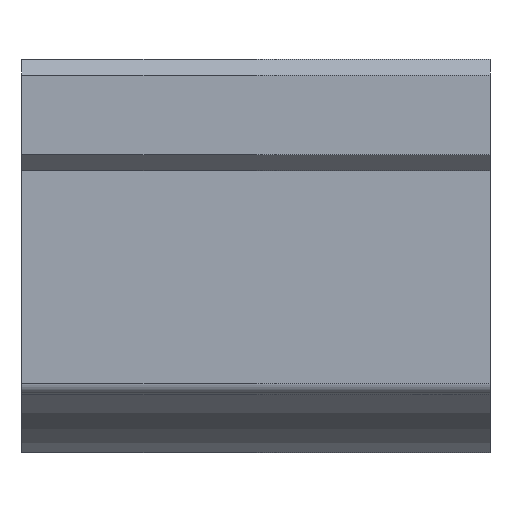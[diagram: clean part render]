
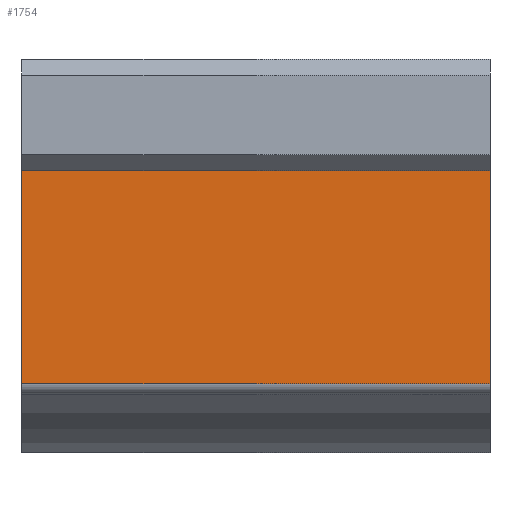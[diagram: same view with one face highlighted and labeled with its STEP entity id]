
A CAD part, front view. The second image highlights one B-rep face of the part: STEP entity #1754.
In plain terms, the highlighted planar face has unit normal (0, -1, 0).
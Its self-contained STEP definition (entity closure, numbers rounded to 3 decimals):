
#1486=CARTESIAN_POINT('',(44.0,-23.5,8.5));
#1487=VERTEX_POINT('',#1486);
#1494=CARTESIAN_POINT('',(44.0,-23.5,-11.5));
#1495=VERTEX_POINT('',#1494);
#1496=CARTESIAN_POINT('',(44.0,-23.5,-11.5));
#1497=DIRECTION('',(0.0,0.0,1.0));
#1498=VECTOR('',#1497,20.);
#1499=LINE('',#1496,#1498);
#1500=EDGE_CURVE('',#1495,#1487,#1499,.T.);
#1564=CARTESIAN_POINT('',(0.0,-23.5,-11.5));
#1565=VERTEX_POINT('',#1564);
#1566=CARTESIAN_POINT('',(44.0,-23.5,-11.5));
#1567=DIRECTION('',(-1.0,0.0,0.0));
#1568=VECTOR('',#1567,44.0);
#1569=LINE('',#1566,#1568);
#1570=EDGE_CURVE('',#1495,#1565,#1569,.T.);
#1630=CARTESIAN_POINT('',(0.0,-23.5,8.5));
#1631=VERTEX_POINT('',#1630);
#1632=CARTESIAN_POINT('',(0.0,-23.5,8.5));
#1633=DIRECTION('',(0.0,0.0,-1.0));
#1634=VECTOR('',#1633,20.);
#1635=LINE('',#1632,#1634);
#1636=EDGE_CURVE('',#1631,#1565,#1635,.T.);
#1738=CARTESIAN_POINT('',(0.0,-23.5,-12.5));
#1739=DIRECTION('',(0.0,-1.0,0.0));
#1740=DIRECTION('',(0.0,0.0,-1.0));
#1741=AXIS2_PLACEMENT_3D('',#1738,#1739,#1740);
#1742=PLANE('',#1741);
#1743=ORIENTED_EDGE('',*,*,#1570,.F.);
#1744=ORIENTED_EDGE('',*,*,#1500,.T.);
#1745=CARTESIAN_POINT('',(0.0,-23.5,8.5));
#1746=DIRECTION('',(1.0,0.0,0.0));
#1747=VECTOR('',#1746,44.0);
#1748=LINE('',#1745,#1747);
#1749=EDGE_CURVE('',#1631,#1487,#1748,.T.);
#1750=ORIENTED_EDGE('',*,*,#1749,.F.);
#1751=ORIENTED_EDGE('',*,*,#1636,.T.);
#1752=EDGE_LOOP('',(#1743,#1744,#1750,#1751));
#1753=FACE_OUTER_BOUND('',#1752,.T.);
#1754=ADVANCED_FACE('',(#1753),#1742,.T.);
